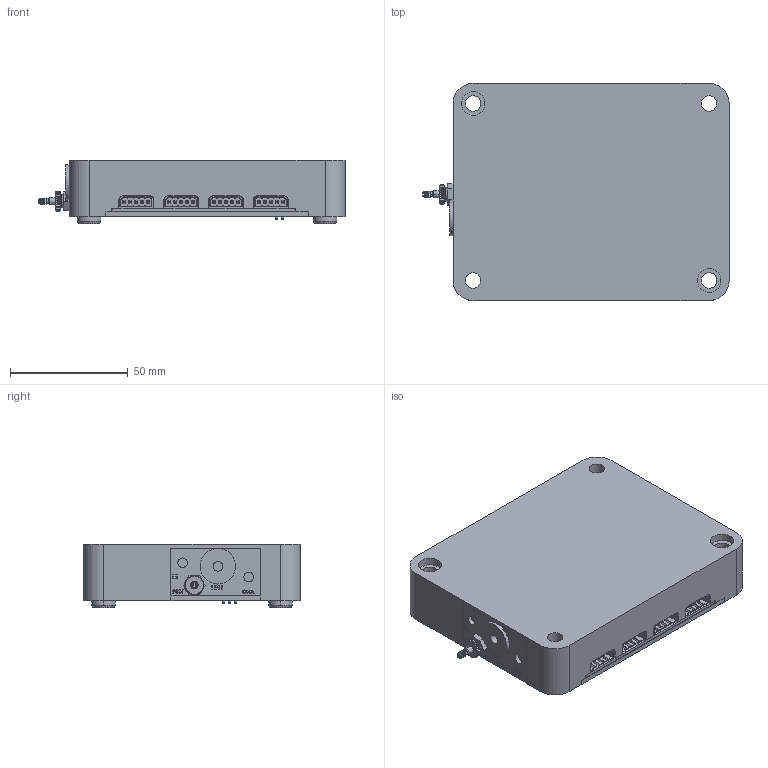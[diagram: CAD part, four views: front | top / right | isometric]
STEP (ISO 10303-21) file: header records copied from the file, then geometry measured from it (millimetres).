
FILE_DESCRIPTION(/* description */ (''),/* implementation_level */ '2;1');
FILE_NAME(/* name */ 'Vaccum module assembly - simplified.stp',/* time_stamp */ '2023-09-08T13:31:00-04:00',/* author */ ('jcoulombe'),/* organization */ (''),/* preprocessor_version */ 'ST-DEVELOPER v19.2',/* originating_system */ 'Autodesk Inventor 2024',/* authorisation */ '');
FILE_SCHEMA (('AUTOMOTIVE_DESIGN { 1 0 10303 214 3 1 1 }'));
Products named in the file (1): Vaccum module asembly_Simplify_1
Bounding box: 129.81 x 92 x 27 mm (x, y, z)
Volume: 251242.8 mm3; surface area: 39400.9 mm2
Topology: 1 solids, 6 shells, 1649 faces, 4393 edges, 2849 vertices
Faces by surface type: plane 1169, cylinder 239, cone 209, bspline 20, torus 6, sphere 6
Full cylindrical faces by diameter (mm): 0.8 x8, 1.062 x6, 1.1 x8, 1.473 x6, 1.603 x6, 1.829 x6, 2 x8, 2.5 x4, 3.8 x7, 4.1 x2, 4.134 x1, 6.5 x2, 6.647 x2, 7.5 x1, 10 x4, 15 x1
Entity records: 52841 total; most frequent: CARTESIAN_POINT 9586, ORIENTED_EDGE 8774, DIRECTION 8318, EDGE_CURVE 4387, LINE 3348, VECTOR 3348, VERTEX_POINT 2849, AXIS2_PLACEMENT_3D 2485
